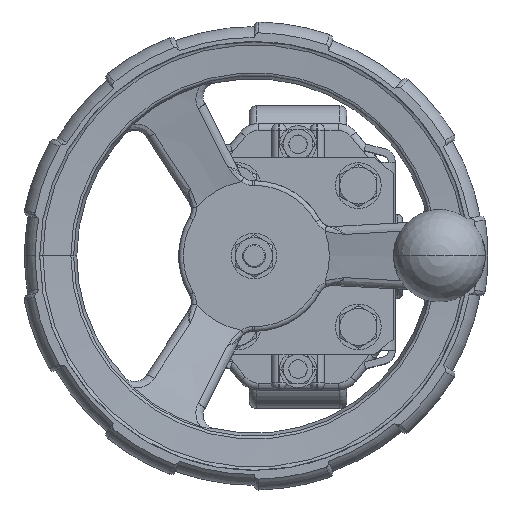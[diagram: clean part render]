
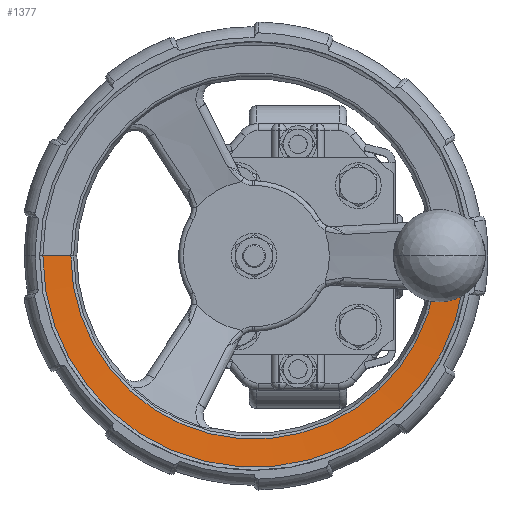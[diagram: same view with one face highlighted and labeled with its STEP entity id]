
A CAD part, top view. The second image highlights one B-rep face of the part: STEP entity #1377.
In plain terms, the highlighted conical face has half-angle 85 degrees and reference radius 92.5 mm.
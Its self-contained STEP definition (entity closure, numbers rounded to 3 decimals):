
#1377=ADVANCED_FACE('',(#3583),#3584,.F.);
#3583=FACE_OUTER_BOUND('',#42728,.T.);
#3584=CONICAL_SURFACE('',#42729,92.5,1.484);
#42728=EDGE_LOOP('',(#68394,#68395,#68396,#68397,#68398));
#42729=AXIS2_PLACEMENT_3D('',#68399,#68400,#68401);
#68394=ORIENTED_EDGE('',*,*,#72746,.T.);
#68395=ORIENTED_EDGE('',*,*,#74768,.T.);
#68396=ORIENTED_EDGE('',*,*,#74769,.T.);
#68397=ORIENTED_EDGE('',*,*,#72808,.T.);
#68398=ORIENTED_EDGE('',*,*,#72804,.T.);
#68399=CARTESIAN_POINT('',(-19.,0.,321.744));
#68400=DIRECTION('',(0.,0.,1.));
#68401=DIRECTION('',(-1.,0.,0.));
#72746=EDGE_CURVE('',#76951,#76921,#76952,.T.);
#72804=EDGE_CURVE('',#77060,#76951,#77061,.T.);
#72808=EDGE_CURVE('',#77067,#77060,#77068,.T.);
#74768=EDGE_CURVE('',#76921,#80212,#80213,.T.);
#74769=EDGE_CURVE('',#80212,#77067,#80214,.T.);
#76921=VERTEX_POINT('',#83018);
#76951=VERTEX_POINT('',#83150);
#76952=LINE('',#83151,#83152);
#77060=VERTEX_POINT('',#83370);
#77061=CIRCLE('',#83371,79.042);
#77067=VERTEX_POINT('',#83428);
#77068=B_SPLINE_CURVE_WITH_KNOTS('',3,(#83429,#83430,#83431,#83432),.UNSPECIFIED.,.F.,.F.,(4,4),(0.001,0.003),.UNSPECIFIED.);
#80212=VERTEX_POINT('',#95660);
#80213=CIRCLE('',#95661,91.131);
#80214=B_SPLINE_CURVE_WITH_KNOTS('',3,(#95662,#95663,#95664,#95665),.UNSPECIFIED.,.F.,.F.,(4,4),(0.014,0.024),.UNSPECIFIED.);
#83018=CARTESIAN_POINT('',(-110.131,0.,321.624));
#83150=CARTESIAN_POINT('',(-98.042,0.,320.567));
#83151=CARTESIAN_POINT('',(-111.5,0.,321.744));
#83152=VECTOR('',#99460,1.);
#83370=CARTESIAN_POINT('',(59.071,-12.35,320.567));
#83371=AXIS2_PLACEMENT_3D('',#99555,#99556,#99557);
#83428=CARTESIAN_POINT('',(61.001,-12.5,320.736));
#83429=CARTESIAN_POINT('',(61.001,-12.5,320.736));
#83430=CARTESIAN_POINT('',(60.355,-12.5,320.68));
#83431=CARTESIAN_POINT('',(59.712,-12.45,320.623));
#83432=CARTESIAN_POINT('',(59.071,-12.35,320.567));
#95660=CARTESIAN_POINT('',(71.269,-12.5,321.624));
#95661=AXIS2_PLACEMENT_3D('',#101988,#101989,#101990);
#95662=CARTESIAN_POINT('',(71.269,-12.5,321.624));
#95663=CARTESIAN_POINT('',(67.847,-12.5,321.328));
#95664=CARTESIAN_POINT('',(64.424,-12.5,321.031));
#95665=CARTESIAN_POINT('',(61.001,-12.5,320.736));
#99460=DIRECTION('',(-0.996,0.,0.087));
#99555=CARTESIAN_POINT('',(-19.,0.,320.567));
#99556=DIRECTION('',(0.,0.,-1.));
#99557=DIRECTION('',(1.,0.,0.));
#101988=CARTESIAN_POINT('',(-19.,0.,321.624));
#101989=DIRECTION('',(0.,0.,1.));
#101990=DIRECTION('',(-1.,0.,0.));
